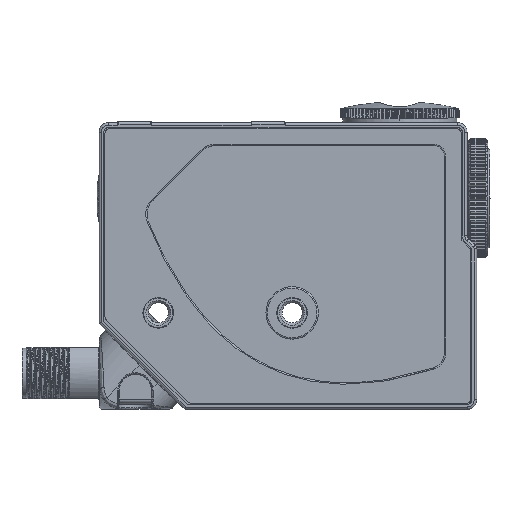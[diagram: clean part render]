
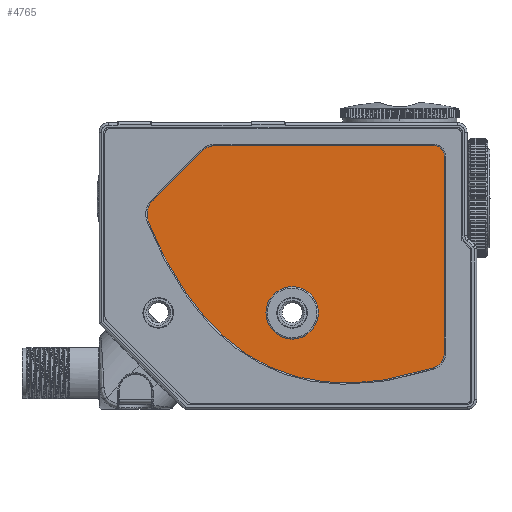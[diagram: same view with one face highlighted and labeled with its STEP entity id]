
A CAD part, front view. The second image highlights one B-rep face of the part: STEP entity #4765.
In plain terms, the highlighted planar face has unit normal (0, -1, 0).
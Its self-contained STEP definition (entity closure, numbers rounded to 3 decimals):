
#3780=PLANE('',#30632);
#4765=ADVANCED_FACE('',(#10123,#10124),#3780,.T.);
#7703=B_SPLINE_CURVE_WITH_KNOTS('',3,(#63155,#63156,#63157,#63158,#63159,
#63160,#63161,#63162,#63163,#63164,#63165,#63166,#63167,#63168),.UNSPECIFIED.,
 .F.,.F.,(4,2,2,2,2,2,4),(0.,0.25,0.375,0.5,0.625,0.75,1.),.UNSPECIFIED.);
#10123=FACE_BOUND('',#10938,.T.);
#10124=FACE_BOUND('',#10939,.T.);
#10938=EDGE_LOOP('',(#15430));
#10939=EDGE_LOOP('',(#15431,#15432,#15433,#15434,#15435,#15436,#15437,#15438));
#15430=ORIENTED_EDGE('',*,*,#26129,.F.);
#15431=ORIENTED_EDGE('',*,*,#26121,.F.);
#15432=ORIENTED_EDGE('',*,*,#26100,.F.);
#15433=ORIENTED_EDGE('',*,*,#26104,.F.);
#15434=ORIENTED_EDGE('',*,*,#26107,.F.);
#15435=ORIENTED_EDGE('',*,*,#26110,.F.);
#15436=ORIENTED_EDGE('',*,*,#26113,.F.);
#15437=ORIENTED_EDGE('',*,*,#26116,.F.);
#15438=ORIENTED_EDGE('',*,*,#26119,.F.);
#22545=VERTEX_POINT('',#63072);
#22546=VERTEX_POINT('',#63074);
#22549=VERTEX_POINT('',#63090);
#22551=VERTEX_POINT('',#63104);
#22553=VERTEX_POINT('',#63116);
#22555=VERTEX_POINT('',#63128);
#22557=VERTEX_POINT('',#63140);
#22559=VERTEX_POINT('',#63154);
#22560=VERTEX_POINT('',#63317);
#26100=EDGE_CURVE('',#22545,#22546,#29515,.T.);
#26104=EDGE_CURVE('',#22549,#22545,#29252,.T.);
#26107=EDGE_CURVE('',#22551,#22549,#29516,.T.);
#26110=EDGE_CURVE('',#22553,#22551,#29253,.T.);
#26113=EDGE_CURVE('',#22555,#22553,#29517,.T.);
#26116=EDGE_CURVE('',#22557,#22555,#29254,.T.);
#26119=EDGE_CURVE('',#22559,#22557,#7703,.T.);
#26121=EDGE_CURVE('',#22546,#22559,#29255,.T.);
#26129=EDGE_CURVE('',#22560,#22560,#29256,.T.);
#29252=CIRCLE('',#30614,2.267);
#29253=CIRCLE('',#30617,4.267);
#29254=CIRCLE('',#30620,4.267);
#29255=CIRCLE('',#30622,3.267);
#29256=CIRCLE('',#30631,5.483);
#29515=LINE('',#63073,#29762);
#29516=LINE('',#63105,#29763);
#29517=LINE('',#63129,#29764);
#29762=VECTOR('',#32718,1.);
#29763=VECTOR('',#32725,1.);
#29764=VECTOR('',#32732,1.);
#30614=AXIS2_PLACEMENT_3D('',#63091,#32721,#32722);
#30617=AXIS2_PLACEMENT_3D('',#63117,#32728,#32729);
#30620=AXIS2_PLACEMENT_3D('',#63141,#32735,#32736);
#30622=AXIS2_PLACEMENT_3D('',#63277,#32739,#32740);
#30631=AXIS2_PLACEMENT_3D('',#63316,#32757,#32758);
#30632=AXIS2_PLACEMENT_3D('',#63318,#32759,#32760);
#32718=DIRECTION('',(0.,0.,-1.));
#32721=DIRECTION('',(0.,1.,0.));
#32722=DIRECTION('',(0.,0.,1.));
#32725=DIRECTION('',(1.,0.,0.));
#32728=DIRECTION('',(0.,1.,0.));
#32729=DIRECTION('',(0.,0.,1.));
#32732=DIRECTION('',(0.707,0.,0.707));
#32735=DIRECTION('',(0.,1.,0.));
#32736=DIRECTION('',(0.,0.,1.));
#32739=DIRECTION('',(0.,1.,0.));
#32740=DIRECTION('',(0.,0.,1.));
#32757=DIRECTION('',(0.,-1.,0.));
#32758=DIRECTION('',(0.,0.,-1.));
#32759=DIRECTION('',(0.,-1.,0.));
#32760=DIRECTION('',(0.,0.,-1.));
#63072=CARTESIAN_POINT('',(33.718,0.2,22.946));
#63073=CARTESIAN_POINT('',(33.718,0.2,22.946));
#63074=CARTESIAN_POINT('',(33.718,0.2,-18.202));
#63090=CARTESIAN_POINT('',(31.451,0.2,25.213));
#63091=CARTESIAN_POINT('',(31.451,0.2,22.946));
#63104=CARTESIAN_POINT('',(-14.032,0.2,25.213));
#63105=CARTESIAN_POINT('',(-14.032,0.2,25.213));
#63116=CARTESIAN_POINT('',(-17.049,0.2,23.964));
#63117=CARTESIAN_POINT('',(-14.032,0.2,20.946));
#63128=CARTESIAN_POINT('',(-27.193,0.2,13.82));
#63129=CARTESIAN_POINT('',(-27.193,0.2,13.82));
#63140=CARTESIAN_POINT('',(-28.119,0.2,9.17));
#63141=CARTESIAN_POINT('',(-24.176,0.2,10.802));
#63154=CARTESIAN_POINT('',(31.451,0.2,-21.312));
#63155=CARTESIAN_POINT('',(31.451,0.2,-21.312));
#63156=CARTESIAN_POINT('',(25.462,0.2,-23.237));
#63157=CARTESIAN_POINT('',(19.214,0.2,-24.498));
#63158=CARTESIAN_POINT('',(9.781,0.2,-24.433));
#63159=CARTESIAN_POINT('',(6.634,0.2,-24.08));
#63160=CARTESIAN_POINT('',(0.53,0.2,-22.568));
#63161=CARTESIAN_POINT('',(-2.426,0.2,-21.416));
#63162=CARTESIAN_POINT('',(-7.932,0.2,-18.38));
#63163=CARTESIAN_POINT('',(-10.479,0.2,-16.495));
#63164=CARTESIAN_POINT('',(-15.104,0.2,-12.232));
#63165=CARTESIAN_POINT('',(-17.183,0.2,-9.854));
#63166=CARTESIAN_POINT('',(-22.791,0.2,-2.267));
#63167=CARTESIAN_POINT('',(-25.713,0.2,3.358));
#63168=CARTESIAN_POINT('',(-28.119,0.2,9.17));
#63277=CARTESIAN_POINT('',(30.451,0.2,-18.202));
#63316=CARTESIAN_POINT('',(1.9,0.2,-9.8));
#63317=CARTESIAN_POINT('',(1.9,0.2,-15.283));
#63318=CARTESIAN_POINT('',(-37.207,0.2,28.707));
